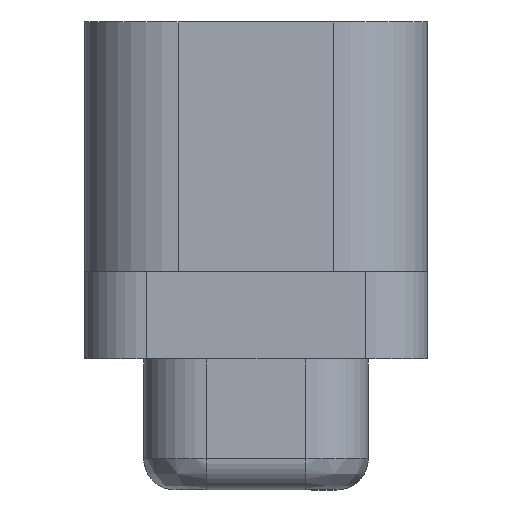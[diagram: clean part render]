
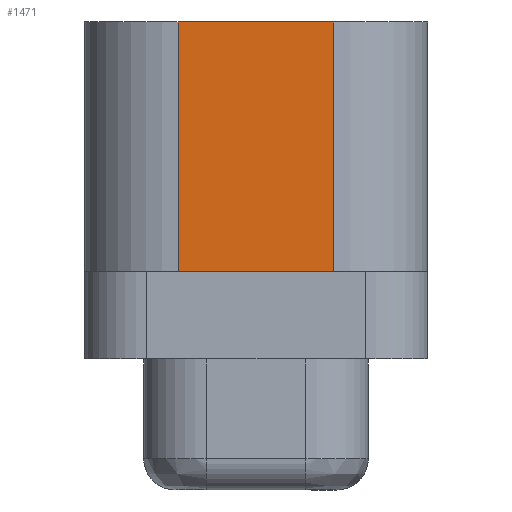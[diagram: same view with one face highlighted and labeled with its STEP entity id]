
A CAD part, left-side view. The second image highlights one B-rep face of the part: STEP entity #1471.
In plain terms, the highlighted planar face has unit normal (-1, 0, 0).
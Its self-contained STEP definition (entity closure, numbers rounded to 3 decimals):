
#598=DIRECTION('',(0.,1.,0.));
#599=VECTOR('',#598,2.5);
#600=CARTESIAN_POINT('',(-54.05,-25.63,-62.));
#601=LINE('',#600,#599);
#680=DIRECTION('',(0.,-1.,0.));
#681=VECTOR('',#680,2.5);
#682=CARTESIAN_POINT('',(-54.05,-23.13,-58.));
#683=LINE('',#682,#681);
#730=DIRECTION('',(0.,0.,-1.));
#731=VECTOR('',#730,4.);
#732=CARTESIAN_POINT('',(-54.05,-23.13,-58.));
#733=LINE('',#732,#731);
#734=DIRECTION('',(0.,0.,-1.));
#735=VECTOR('',#734,4.);
#736=CARTESIAN_POINT('',(-54.05,-25.63,-58.));
#737=LINE('',#736,#735);
#835=CARTESIAN_POINT('',(-54.05,-23.13,-58.));
#836=VERTEX_POINT('',#835);
#837=CARTESIAN_POINT('',(-54.05,-23.13,-62.));
#838=VERTEX_POINT('',#837);
#847=CARTESIAN_POINT('',(-54.05,-25.63,-58.));
#848=CARTESIAN_POINT('',(-54.05,-25.63,-62.));
#849=VERTEX_POINT('',#847);
#850=VERTEX_POINT('',#848);
#1459=CARTESIAN_POINT('',(-54.05,-21.63,-62.));
#1460=DIRECTION('',(-1.,0.,0.));
#1461=DIRECTION('',(0.,-1.,0.));
#1462=AXIS2_PLACEMENT_3D('',#1459,#1460,#1461);
#1463=PLANE('',#1462);
#1465=ORIENTED_EDGE('',*,*,#1464,.F.);
#1466=ORIENTED_EDGE('',*,*,#1360,.T.);
#1467=ORIENTED_EDGE('',*,*,#1451,.T.);
#1468=ORIENTED_EDGE('',*,*,#1301,.T.);
#1469=EDGE_LOOP('',(#1465,#1466,#1467,#1468));
#1470=FACE_OUTER_BOUND('',#1469,.F.);
#1301=EDGE_CURVE('',#850,#838,#601,.T.);
#1360=EDGE_CURVE('',#836,#849,#683,.T.);
#1451=EDGE_CURVE('',#849,#850,#737,.T.);
#1464=EDGE_CURVE('',#836,#838,#733,.T.);
#1471=ADVANCED_FACE('',(#1470),#1463,.T.);
